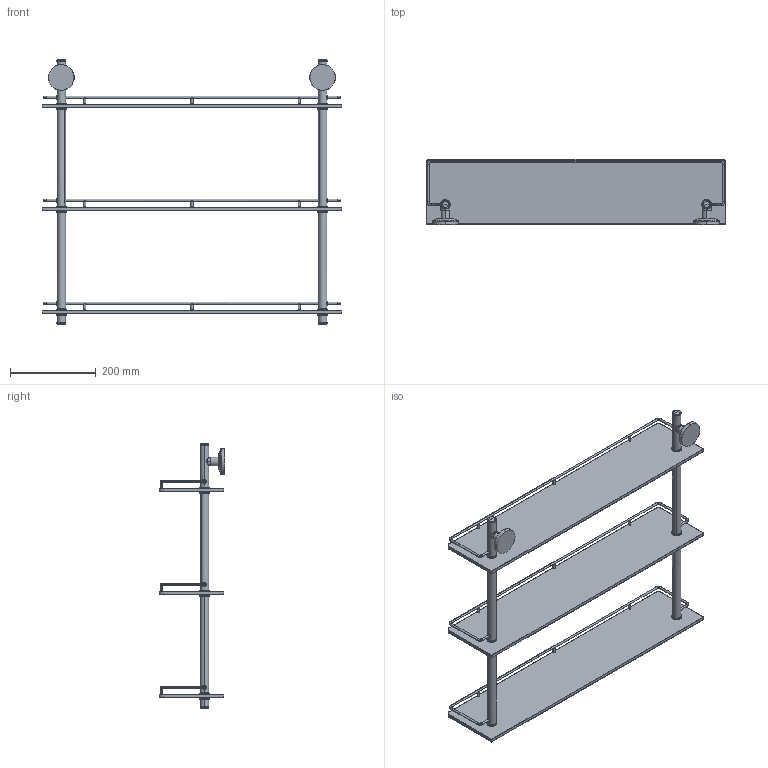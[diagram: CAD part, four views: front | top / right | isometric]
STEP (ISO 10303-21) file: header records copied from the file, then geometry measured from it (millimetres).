
FILE_DESCRIPTION(('THIS FILE CONTAINS SOME STEP INSTANCES'),'1');
FILE_NAME('sta_071.stp','2015-12-09T13:04:38',('UNDEFINED'),('UNDEFINED'),'T-FLEX CAD STEP converter','T-FLEX CAD','');
FILE_SCHEMA(('CONFIG_CONTROL_DESIGN'));
Length unit declared in the file: metre
Products named in the file (8): 砱鋋_23; 砱鋋_24; 砱鋋_27; 3D 鐨飹懤艜_49
Bounding box: 700 x 151.9 x 618.6 mm (x, y, z)
Volume: 3030778.2 mm3; surface area: 814043.3 mm2
Topology: 8 solids, 12 shells, 532 faces, 1307 edges, 791 vertices
Faces by surface type: cylinder 186, plane 105, bspline 97, cone 80, torus 56, sphere 8
Entity records: 43621 total; most frequent: CARTESIAN_POINT 33553, ORIENTED_EDGE 2526, DIRECTION 1420, EDGE_CURVE 1263, VERTEX_POINT 791, EDGE_LOOP 580, AXIS2_PLACEMENT_3D 538, ADVANCED_FACE 532
